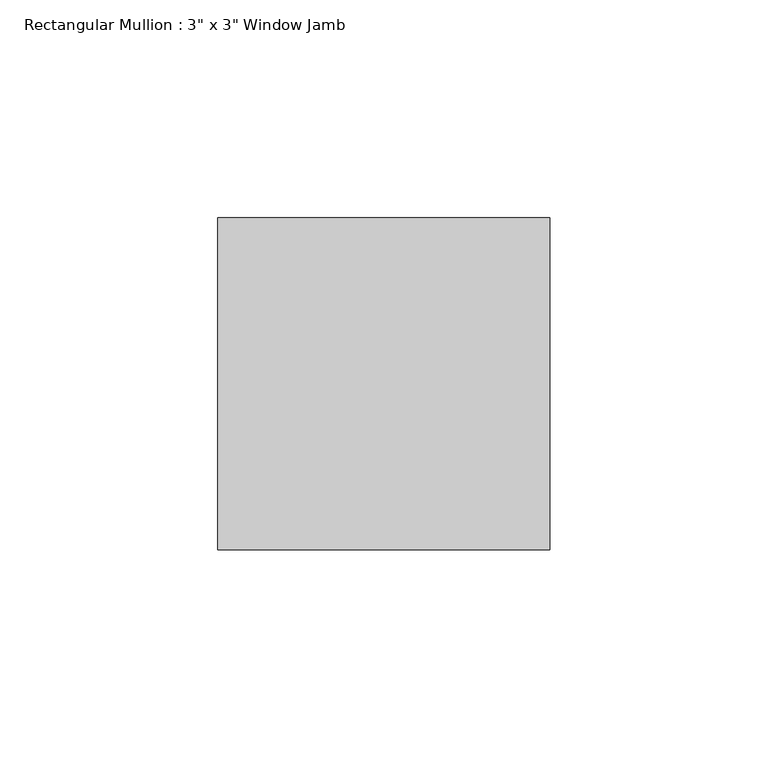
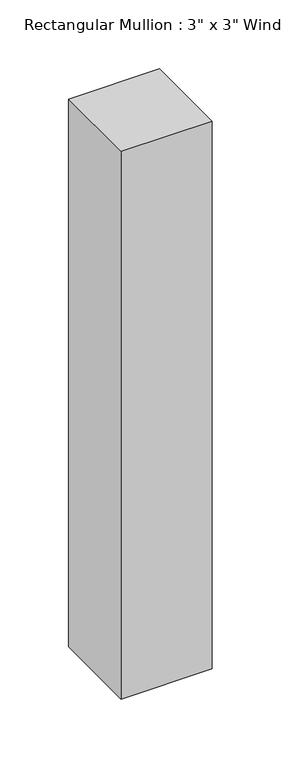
"""IFC4 building model written with IfcOpenShell, lengths in millimetres: member geometry."""

from ifc_helpers import new_model, si_unit, frame, origin, place, context, project, spatial, polyline, outline, extrude, source, transform, mapped, element, save


def member_ba51e770(model_context):
    return source(origin(), model_context, "Body", "SweptSolid", [
        extrude(outline(polyline([(0.0, 25.4), (0.0, -50.8), (-76.2, -50.8), (-76.2, 25.4), (0.0, 25.4)])), frame((0.0, 0.0, -485.14), z_axis=(0.0, 0.0, 1.0), x_axis=(1.0, 0.0, 0.0)), (0.0, 0.0, 1.0), 485.14),
    ])


if __name__ == "__main__":
    model = new_model("IFC4")
    model_context = context("Model", 3, world=origin())
    ifc_project = project(units=[si_unit("LENGTHUNIT", "METRE", prefix="MILLI")], contexts=[model_context])
    site = spatial("IfcSite", under=ifc_project)
    building = spatial("IfcBuilding", under=site)
    placement = place(None, origin())
    member_shape = member_ba51e770(model_context)
    element("IfcMember", 1, ObjectType="Rectangular Mullion : 3\" x 3\" Window Jamb", at=placement, inside=building, context=model_context, shape_type="MappedRepresentation", body=[
        mapped(member_shape, transform((0.0, 0.0, 0.0), x_axis=(1.0, 0.0, 0.0), y_axis=(0.0, 1.0, 0.0), z_axis=(0.0, 0.0, 1.0))),
    ])
    save(model, "model.ifc")
